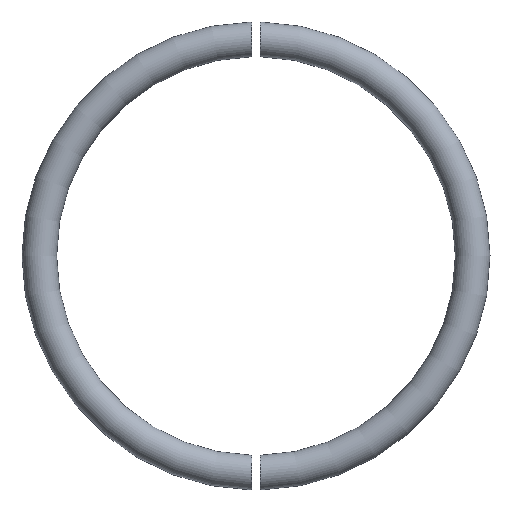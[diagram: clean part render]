
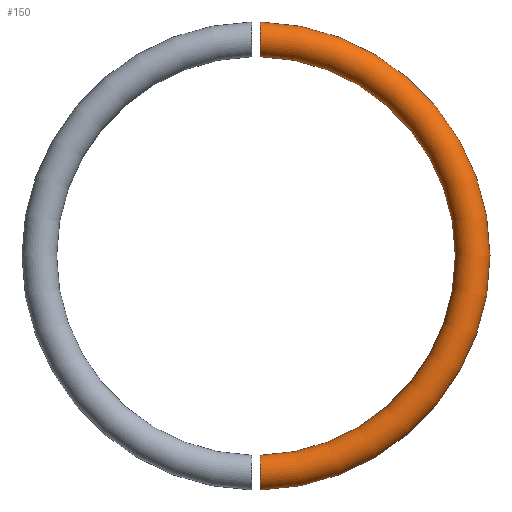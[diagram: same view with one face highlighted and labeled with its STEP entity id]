
A CAD part, top view. The second image highlights one B-rep face of the part: STEP entity #150.
In plain terms, the highlighted toroidal (fillet/blend) face has major radius 25 mm and minor radius 2 mm.
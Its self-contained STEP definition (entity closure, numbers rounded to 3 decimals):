
#56=AXIS2_PLACEMENT_3D('Circle Axis2P3D',#54,#55,$) ;
#79=AXIS2_PLACEMENT_3D('Circle Axis2P3D',#77,#78,$) ;
#128=AXIS2_PLACEMENT_3D('Torus Axis2P3D',#125,#126,#127) ;
#49=CARTESIAN_POINT('Vertex',(0.5,-22.995,0.)) ;
#51=CARTESIAN_POINT('Vertex',(0.5,-26.995,0.)) ;
#54=CARTESIAN_POINT('Axis2P3D Location',(0.,0.,0.)) ;
#58=CARTESIAN_POINT('Vertex',(0.5,22.995,0.)) ;
#74=CARTESIAN_POINT('Vertex',(0.5,26.995,0.)) ;
#77=CARTESIAN_POINT('Axis2P3D Location',(0.,0.,0.)) ;
#95=CARTESIAN_POINT('Control Point',(0.5,-26.995,0.)) ;
#96=CARTESIAN_POINT('Control Point',(0.5,-26.995,0.208)) ;
#97=CARTESIAN_POINT('Control Point',(0.5,-26.968,0.415)) ;
#98=CARTESIAN_POINT('Control Point',(0.5,-26.914,0.618)) ;
#99=CARTESIAN_POINT('Control Point',(0.5,-26.755,1.006)) ;
#100=CARTESIAN_POINT('Control Point',(0.5,-26.501,1.34)) ;
#101=CARTESIAN_POINT('Control Point',(0.5,-26.354,1.489)) ;
#102=CARTESIAN_POINT('Control Point',(0.5,-26.023,1.747)) ;
#103=CARTESIAN_POINT('Control Point',(0.5,-25.637,1.911)) ;
#104=CARTESIAN_POINT('Control Point',(0.5,-25.435,1.968)) ;
#105=CARTESIAN_POINT('Control Point',(0.5,-25.02,2.027)) ;
#106=CARTESIAN_POINT('Control Point',(0.5,-24.604,1.978)) ;
#107=CARTESIAN_POINT('Control Point',(0.5,-24.401,1.926)) ;
#108=CARTESIAN_POINT('Control Point',(0.5,-24.011,1.772)) ;
#109=CARTESIAN_POINT('Control Point',(0.5,-23.674,1.522)) ;
#110=CARTESIAN_POINT('Control Point',(0.5,-23.522,1.376)) ;
#111=CARTESIAN_POINT('Control Point',(0.5,-23.261,1.049)) ;
#112=CARTESIAN_POINT('Control Point',(0.5,-23.092,0.666)) ;
#113=CARTESIAN_POINT('Control Point',(0.5,-23.032,0.464)) ;
#114=CARTESIAN_POINT('Control Point',(0.5,-22.999,0.247)) ;
#115=CARTESIAN_POINT('Control Point',(0.5,-22.995,0.03)) ;
#116=CARTESIAN_POINT('Control Point',(0.5,-22.995,0.02)) ;
#117=CARTESIAN_POINT('Control Point',(0.5,-22.995,0.01)) ;
#118=CARTESIAN_POINT('Control Point',(0.5,-22.995,0.)) ;
#125=CARTESIAN_POINT('Axis2P3D Location',(0.,0.,0.)) ;
#131=CARTESIAN_POINT('Control Point',(0.5,26.995,0.)) ;
#132=CARTESIAN_POINT('Control Point',(0.5,26.995,0.418)) ;
#133=CARTESIAN_POINT('Control Point',(0.5,26.886,0.836)) ;
#134=CARTESIAN_POINT('Control Point',(0.5,26.668,1.212)) ;
#135=CARTESIAN_POINT('Control Point',(0.5,26.064,1.816)) ;
#136=CARTESIAN_POINT('Control Point',(0.5,25.243,2.051)) ;
#137=CARTESIAN_POINT('Control Point',(0.5,24.808,2.059)) ;
#138=CARTESIAN_POINT('Control Point',(0.5,23.963,1.842)) ;
#139=CARTESIAN_POINT('Control Point',(0.5,23.334,1.236)) ;
#140=CARTESIAN_POINT('Control Point',(0.5,23.108,0.852)) ;
#141=CARTESIAN_POINT('Control Point',(0.5,22.995,0.426)) ;
#142=CARTESIAN_POINT('Control Point',(0.5,22.995,0.)) ;
#55=DIRECTION('Axis2P3D Direction',(0.,-0.,1.)) ;
#78=DIRECTION('Axis2P3D Direction',(0.,-0.,1.)) ;
#126=DIRECTION('Axis2P3D Direction',(0.,0.,1.)) ;
#127=DIRECTION('Axis2P3D XDirection',(0.,-1.,0.)) ;
#145=ORIENTED_EDGE('',*,*,#119,.F.) ;
#146=ORIENTED_EDGE('',*,*,#81,.T.) ;
#147=ORIENTED_EDGE('',*,*,#143,.T.) ;
#148=ORIENTED_EDGE('',*,*,#60,.F.) ;
#150=ADVANCED_FACE('PartBody1',(#149),#129,.T.) ;
#94=B_SPLINE_CURVE_WITH_KNOTS('',5,(#95,#96,#97,#98,#99,#100,#101,#102,#103,#104,#105,#106,#107,#108,#109,#110,#111,#112,#113,#114,#115,#116,#117,#118),.UNSPECIFIED.,.F.,.U.,(6,3,3,3,3,3,3,6),(0.,1.508,3.019,4.528,6.036,7.547,9.055,9.127),.UNSPECIFIED.) ;
#130=B_SPLINE_CURVE_WITH_KNOTS('',5,(#131,#132,#133,#134,#135,#136,#137,#138,#139,#140,#141,#142),.UNSPECIFIED.,.F.,.U.,(6,3,3,6),(0.,3.037,6.073,9.168),.UNSPECIFIED.) ;
#57=CIRCLE('generated circle',#56,23.) ;
#80=CIRCLE('generated circle',#79,27.) ;
#129=TOROIDAL_SURFACE('homeo Torus',#128,25.,2.) ;
#60=EDGE_CURVE('',#50,#59,#57,.T.) ;
#81=EDGE_CURVE('',#52,#75,#80,.T.) ;
#119=EDGE_CURVE('',#52,#50,#94,.T.) ;
#143=EDGE_CURVE('',#75,#59,#130,.T.) ;
#144=EDGE_LOOP('',(#145,#146,#147,#148)) ;
#149=FACE_OUTER_BOUND('',#144,.T.) ;
#50=VERTEX_POINT('',#49) ;
#52=VERTEX_POINT('',#51) ;
#59=VERTEX_POINT('',#58) ;
#75=VERTEX_POINT('',#74) ;
